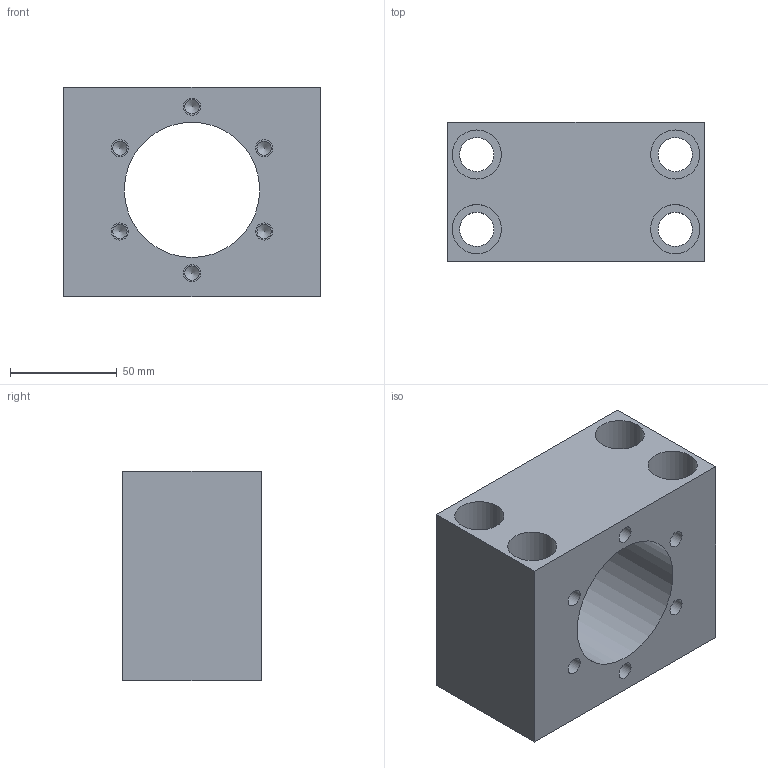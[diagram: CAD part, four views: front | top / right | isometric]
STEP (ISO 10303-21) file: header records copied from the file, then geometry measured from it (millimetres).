
FILE_DESCRIPTION(/* description */ (''),/* implementation_level */ '2;1');
FILE_NAME(/* name */ 'MGS40-1.stp',/* time_stamp */ '2017-01-04T15:47:27+08:00',/* author */ (''),/* organization */ (''),/* preprocessor_version */ 'ST-DEVELOPER v15',/* originating_system */ 'SIEMENS PLM Software NX 8.5',/* authorisation */ '');
FILE_SCHEMA (('AUTOMOTIVE_DESIGN { 1 0 10303 214 3 1 1 1 }'));
Length unit declared in the file: millimetre
Products named in the file (1): Admi05BC77158b5l
Bounding box: 120 x 65 x 98 mm (x, y, z)
Volume: 454366.1 mm3; surface area: 81253 mm2
Topology: 1 solids, 1 shells, 51 faces, 106 edges, 71 vertices
Faces by surface type: cylinder 25, plane 20, cone 6
Full cylindrical faces by diameter (mm): 6.7 x6, 8 x6, 16 x4, 18 x4, 23 x4, 63.4 x1
Entity records: 1191 total; most frequent: DIRECTION 218, CARTESIAN_POINT 179, ORIENTED_EDGE 124, FACE_BOUND 110, EDGE_LOOP 106, AXIS2_PLACEMENT_3D 103, VERTEX_POINT 64, EDGE_CURVE 62
